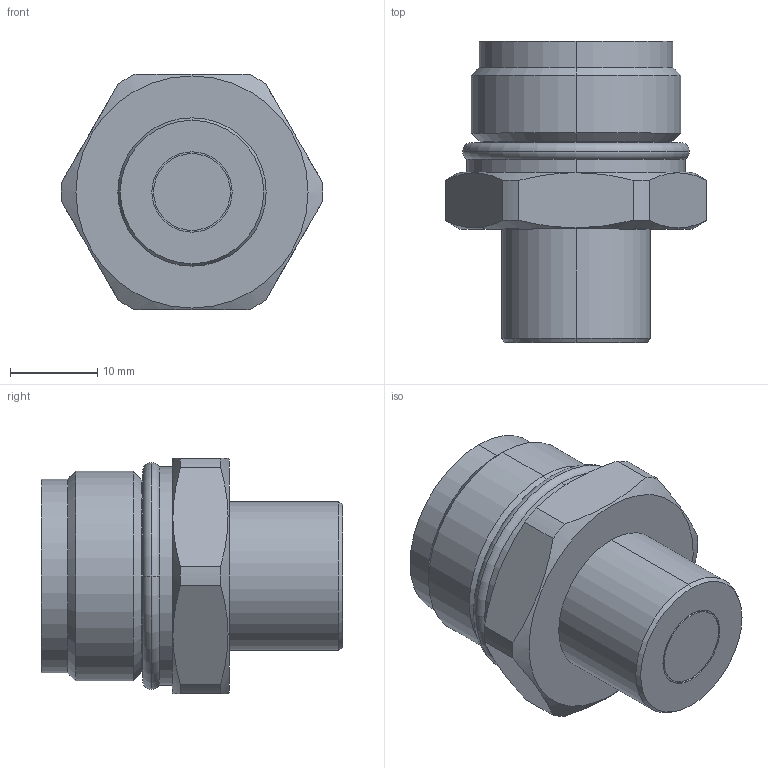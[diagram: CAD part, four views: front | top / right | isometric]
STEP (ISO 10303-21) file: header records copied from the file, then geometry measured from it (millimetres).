
FILE_DESCRIPTION (( 'STEP AP203' ), '1' );
FILE_NAME ('JLP020-x-M0_rev1.step', '2010-03-15T09:09:50', ( ' ' ), ( ' ' ), 'SwSTEP 2.0', 'SolidWorks 2009', '' );
FILE_SCHEMA (( 'CONFIG_CONTROL_DESIGN' ));
Length unit declared in the file: millimetre
Products named in the file (4): JLP020-x-M0_rev1; JLP020-x-M0_rev1.sldasm-Part-1; JLP020-x-M0_rev1.sldasm-Part-2; JLP020-x-M0_rev1.sldasm-Part-3
Assembly tree (3 placements, depth 2):
  JLP020-x-M0_rev1
    JLP020-x-M0_rev1.sldasm-Part-2
    JLP020-x-M0_rev1.sldasm-Part-3
    JLP020-x-M0_rev1.sldasm-Part-1
Bounding box: 29.99 x 34.5 x 27 mm (x, y, z)
Volume: 14641.8 mm3; surface area: 5194.7 mm2
Topology: 3 solids, 3 shells, 65 faces, 144 edges, 90 vertices
Faces by surface type: cylinder 24, plane 23, cone 14, torus 4
Entity records: 2372 total; most frequent: CARTESIAN_POINT 503, DIRECTION 330, ORIENTED_EDGE 288, EDGE_CURVE 144, AXIS2_PLACEMENT_3D 137, VERTEX_POINT 90, EDGE_LOOP 72, CIRCLE 66
